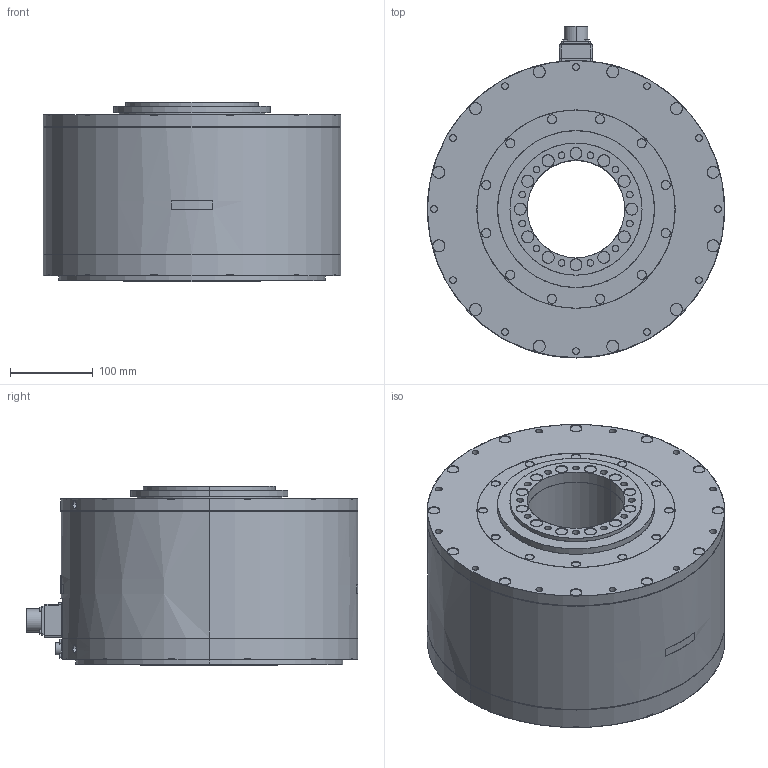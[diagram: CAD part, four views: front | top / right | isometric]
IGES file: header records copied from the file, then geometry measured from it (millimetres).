
Start section: SolidWorks IGES file using analytic representation for surfaces
Bounding box: 360 x 402.1 x 217.5 mm (x, y, z)
Surface area: 551592.2 mm2 (no closed solid volume)
Topology: 0 solids, 0 shells, 540 faces, 11852 edges, 11852 vertices
Faces by surface type: revolution 326, bspline 214
